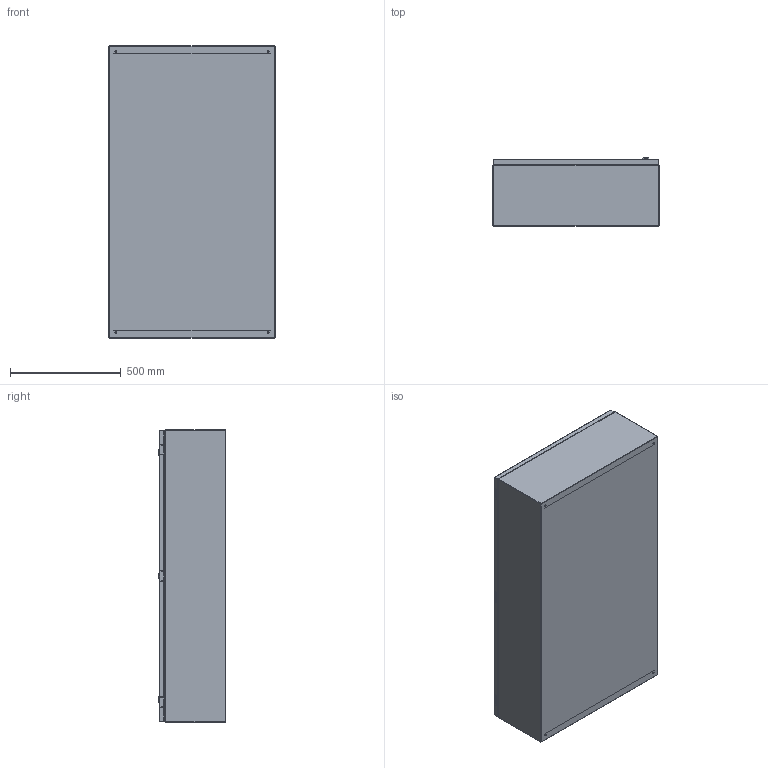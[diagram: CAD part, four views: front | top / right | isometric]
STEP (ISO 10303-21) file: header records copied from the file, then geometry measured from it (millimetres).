
FILE_DESCRIPTION (( 'STEP AP214' ), '1' );
FILE_NAME ('ÙÌÏ-07-1320õ750õ300-IP31-ÓÕË3-ÊÝÀÇ.STEP', '2023-01-24T12:24:01', ( '' ), ( '' ), 'SwSTEP 2.0', 'SolidWorks 2018', '' );
FILE_SCHEMA (( 'AUTOMOTIVE_DESIGN' ));
Length unit declared in the file: millimetre
Products named in the file (1): ÙÌÏ-07-1320õ750õ300-IP31-ÓÕË3-ÊÝÀÇ
Bounding box: 750 x 306.7 x 1320 mm (x, y, z)
Surface area: 5764942.1 mm2 (no closed solid volume)
Topology: 0 solids, 33 shells, 182 faces, 718 edges, 560 vertices
Faces by surface type: plane 93, cylinder 71, bspline 6, cone 6, torus 6
Entity records: 10507 total; most frequent: CARTESIAN_POINT 2521, DIRECTION 1280, ORIENTED_EDGE 968, EDGE_CURVE 718, VERTEX_POINT 560, AXIS2_PLACEMENT_3D 437, VECTOR 406, LINE 406
